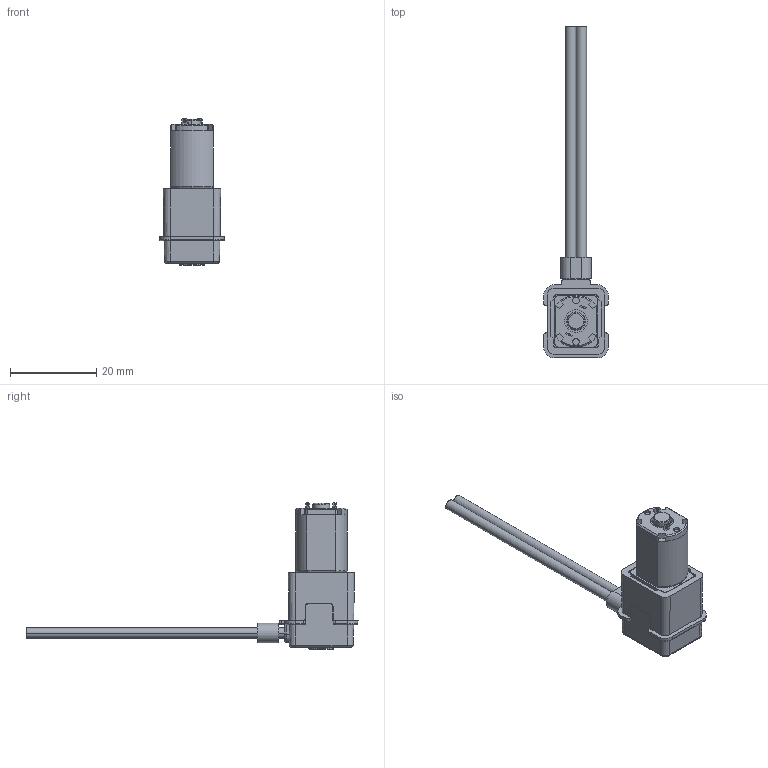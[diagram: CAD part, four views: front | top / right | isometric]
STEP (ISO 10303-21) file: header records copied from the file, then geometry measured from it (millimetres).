
FILE_DESCRIPTION (( 'STEP AP214' ), '1' );
FILE_NAME ('Newmotor-for_Web_RP-QII_QIIX_QIIA.STEP', '2022-01-20T05:46:02', ( '' ), ( '' ), 'SwSTEP 2.0', 'SolidWorks 2021', '' );
FILE_SCHEMA (( 'AUTOMOTIVE_DESIGN' ));
Length unit declared in the file: millimetre
Products named in the file (10): BASE - A; RP-Q1.2_GEAR BASE; New motor unit for web; Sara Screw M1.4-2; CASE3; RP-Q1.2 Motor1; Newmotor-for_Web_RP-QII_QIIX_QIIA; ROTOR3; TUBE3; チューブ押え
Assembly tree (10 placements, depth 3):
  Newmotor-for_Web_RP-QII_QIIX_QIIA
    CASE3
    ROTOR3
    TUBE3
    チューブ押え
    BASE - A
    New motor unit for web
      RP-Q1.2 Motor1
      RP-Q1.2_GEAR BASE
      Sara Screw M1.4-2  x2
Bounding box: 15 x 77 x 34.05 mm (x, y, z)
Volume: 5291.4 mm3; surface area: 5260.7 mm2
Topology: 10 solids, 13 shells, 468 faces, 1146 edges, 733 vertices
Faces by surface type: plane 220, cylinder 130, cone 88, torus 25, bspline 5
Entity records: 13587 total; most frequent: CARTESIAN_POINT 2611, DIRECTION 2239, ORIENTED_EDGE 2152, EDGE_CURVE 1076, AXIS2_PLACEMENT_3D 811, VERTEX_POINT 689, LINE 617, VECTOR 617
